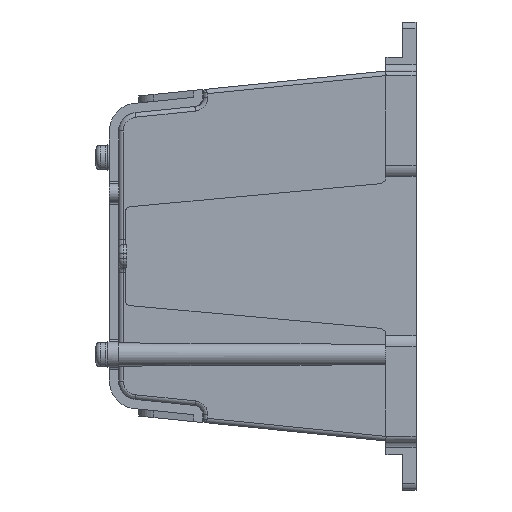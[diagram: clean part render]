
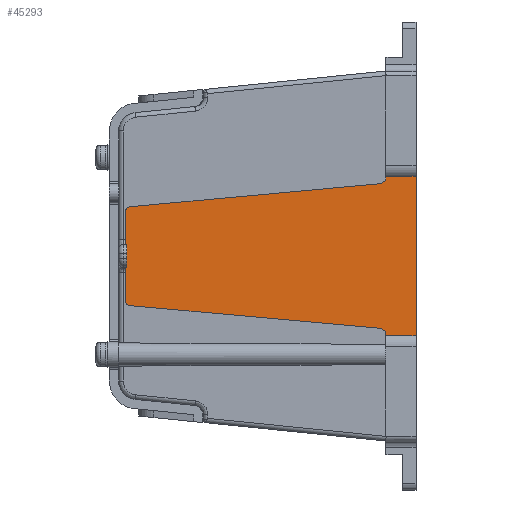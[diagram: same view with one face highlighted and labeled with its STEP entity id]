
A CAD part, left-side view. The second image highlights one B-rep face of the part: STEP entity #45293.
In plain terms, the highlighted planar face has unit normal (-1, 0, 0).
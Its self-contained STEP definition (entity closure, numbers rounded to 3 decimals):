
#2749=LINE('',#72663,#6753);
#3558=LINE('',#75454,#7562);
#3579=LINE('',#75558,#7583);
#3585=LINE('',#75572,#7589);
#3589=LINE('',#75580,#7593);
#3624=LINE('',#75730,#7628);
#3628=LINE('',#75742,#7632);
#3630=LINE('',#75750,#7634);
#4131=LINE('',#77844,#8135);
#4136=LINE('',#77861,#8140);
#4139=LINE('',#77870,#8143);
#4140=LINE('',#77872,#8144);
#6753=VECTOR('',#57327,1000.);
#7562=VECTOR('',#59804,1000.);
#7583=VECTOR('',#59871,1000.);
#7589=VECTOR('',#59881,1000.);
#7593=VECTOR('',#59887,1000.);
#7628=VECTOR('',#59998,1000.);
#7632=VECTOR('',#60010,1000.);
#7634=VECTOR('',#60020,1000.);
#8135=VECTOR('',#61681,1000.);
#8140=VECTOR('',#61696,1000.);
#8143=VECTOR('',#61707,1000.);
#8144=VECTOR('',#61708,1000.);
#19470=ORIENTED_EDGE('',*,*,#28820,.F.);
#19471=ORIENTED_EDGE('',*,*,#27903,.F.);
#19472=ORIENTED_EDGE('',*,*,#26691,.F.);
#19473=ORIENTED_EDGE('',*,*,#28012,.F.);
#19474=ORIENTED_EDGE('',*,*,#28014,.F.);
#19475=ORIENTED_EDGE('',*,*,#28018,.F.);
#19476=ORIENTED_EDGE('',*,*,#28020,.F.);
#19477=ORIENTED_EDGE('',*,*,#28022,.F.);
#19478=ORIENTED_EDGE('',*,*,#27952,.F.);
#19479=ORIENTED_EDGE('',*,*,#27941,.F.);
#19480=ORIENTED_EDGE('',*,*,#27948,.T.);
#19481=ORIENTED_EDGE('',*,*,#28807,.F.);
#19482=ORIENTED_EDGE('',*,*,#28812,.F.);
#19483=ORIENTED_EDGE('',*,*,#28815,.F.);
#19484=ORIENTED_EDGE('',*,*,#28818,.F.);
#19485=ORIENTED_EDGE('',*,*,#28821,.F.);
#26691=EDGE_CURVE('',#32511,#32509,#2749,.T.);
#27903=EDGE_CURVE('',#32509,#33234,#3558,.T.);
#27941=EDGE_CURVE('',#33258,#33259,#3579,.T.);
#27948=EDGE_CURVE('',#33258,#33263,#3585,.T.);
#27952=EDGE_CURVE('',#33259,#33265,#3589,.T.);
#28012=EDGE_CURVE('',#33314,#32511,#3624,.T.);
#28014=EDGE_CURVE('',#33316,#33314,#36326,.T.);
#28018=EDGE_CURVE('',#33318,#33316,#3628,.T.);
#28020=EDGE_CURVE('',#33320,#33318,#36327,.T.);
#28022=EDGE_CURVE('',#33265,#33320,#3630,.T.);
#28807=EDGE_CURVE('',#33708,#33263,#4131,.T.);
#28812=EDGE_CURVE('',#33712,#33708,#36439,.T.);
#28815=EDGE_CURVE('',#33714,#33712,#4136,.T.);
#28818=EDGE_CURVE('',#33716,#33714,#36440,.T.);
#28820=EDGE_CURVE('',#33234,#33717,#4139,.T.);
#28821=EDGE_CURVE('',#33717,#33716,#4140,.T.);
#32509=VERTEX_POINT('',#72658);
#32511=VERTEX_POINT('',#72662);
#33234=VERTEX_POINT('',#75455);
#33258=VERTEX_POINT('',#75559);
#33259=VERTEX_POINT('',#75560);
#33263=VERTEX_POINT('',#75571);
#33265=VERTEX_POINT('',#75576);
#33314=VERTEX_POINT('',#75729);
#33316=VERTEX_POINT('',#75734);
#33318=VERTEX_POINT('',#75741);
#33320=VERTEX_POINT('',#75746);
#33708=VERTEX_POINT('',#77845);
#33712=VERTEX_POINT('',#77854);
#33714=VERTEX_POINT('',#77860);
#33716=VERTEX_POINT('',#77866);
#33717=VERTEX_POINT('',#77871);
#36326=CIRCLE('',#49278,1.5);
#36327=CIRCLE('',#49282,1.);
#36439=CIRCLE('',#49867,1.);
#36440=CIRCLE('',#49871,1.5);
#38730=EDGE_LOOP('',(#19470,#19471,#19472,#19473,#19474,#19475,#19476,#19477,
#19478,#19479,#19480,#19481,#19482,#19483,#19484,#19485));
#41506=FACE_BOUND('',#38730,.T.);
#42971=PLANE('',#49873);
#45293=ADVANCED_FACE('',(#41506),#42971,.F.);
#49278=AXIS2_PLACEMENT_3D('',#75735,#60002,#60003);
#49282=AXIS2_PLACEMENT_3D('',#75747,#60014,#60015);
#49867=AXIS2_PLACEMENT_3D('',#77855,#61689,#61690);
#49871=AXIS2_PLACEMENT_3D('',#77867,#61701,#61702);
#49873=AXIS2_PLACEMENT_3D('',#77869,#61705,#61706);
#57327=DIRECTION('',(0.,-1.,0.));
#59804=DIRECTION('',(0.,0.,-1.));
#59871=DIRECTION('',(0.,0.,1.));
#59881=DIRECTION('',(0.,1.,0.));
#59887=DIRECTION('',(0.,1.,0.));
#59998=DIRECTION('',(0.,0.,1.));
#60002=DIRECTION('',(-1.,0.,0.));
#60003=DIRECTION('',(0.,1.,0.));
#60010=DIRECTION('',(0.,-0.996,0.092));
#60014=DIRECTION('',(1.,0.,0.));
#60015=DIRECTION('',(0.,1.,0.));
#60020=DIRECTION('',(0.,0.,1.));
#61681=DIRECTION('',(0.,0.,1.));
#61689=DIRECTION('',(1.,0.,0.));
#61690=DIRECTION('',(0.,-1.,0.));
#61696=DIRECTION('',(0.,0.996,0.09));
#61701=DIRECTION('',(-1.,0.,0.));
#61702=DIRECTION('',(0.,1.,0.));
#61705=DIRECTION('',(1.,0.,0.));
#61706=DIRECTION('',(0.,0.,-1.));
#61707=DIRECTION('',(0.,1.,0.));
#61708=DIRECTION('',(0.,0.,1.));
#72658=CARTESIAN_POINT('',(35.475,0.,17.2));
#72662=CARTESIAN_POINT('',(35.475,6.5,17.2));
#72663=CARTESIAN_POINT('',(35.475,0.,17.2));
#75454=CARTESIAN_POINT('',(35.475,0.,-17.2));
#75455=CARTESIAN_POINT('',(35.475,0.,-17.2));
#75558=CARTESIAN_POINT('',(35.475,62.6,-9.723));
#75559=CARTESIAN_POINT('',(35.475,62.6,-2.5));
#75560=CARTESIAN_POINT('',(35.475,62.6,2.5));
#75571=CARTESIAN_POINT('',(35.475,62.8,-2.5));
#75572=CARTESIAN_POINT('',(35.475,62.6,-2.5));
#75576=CARTESIAN_POINT('',(35.475,62.8,2.5));
#75580=CARTESIAN_POINT('',(35.475,62.6,2.5));
#75729=CARTESIAN_POINT('',(35.475,6.5,17.118));
#75730=CARTESIAN_POINT('',(35.475,6.5,17.118));
#75734=CARTESIAN_POINT('',(35.475,7.862,15.624));
#75735=CARTESIAN_POINT('',(35.475,8.,17.118));
#75741=CARTESIAN_POINT('',(35.475,61.892,10.647));
#75742=CARTESIAN_POINT('',(35.475,7.862,15.624));
#75746=CARTESIAN_POINT('',(35.475,62.8,9.651));
#75747=CARTESIAN_POINT('',(35.475,61.8,9.651));
#75750=CARTESIAN_POINT('',(35.475,62.8,-9.723));
#77844=CARTESIAN_POINT('',(35.475,62.8,-9.723));
#77845=CARTESIAN_POINT('',(35.475,62.8,-9.723));
#77854=CARTESIAN_POINT('',(35.475,61.89,-10.719));
#77855=CARTESIAN_POINT('',(35.475,61.8,-9.723));
#77860=CARTESIAN_POINT('',(35.475,7.864,-15.626));
#77861=CARTESIAN_POINT('',(35.475,7.864,-15.626));
#77866=CARTESIAN_POINT('',(35.475,6.5,-17.12));
#77867=CARTESIAN_POINT('',(35.475,8.,-17.12));
#77869=CARTESIAN_POINT('',(35.475,61.8,-9.723));
#77870=CARTESIAN_POINT('',(35.475,0.,-17.2));
#77871=CARTESIAN_POINT('',(35.475,6.5,-17.2));
#77872=CARTESIAN_POINT('',(35.475,6.5,-17.12));
